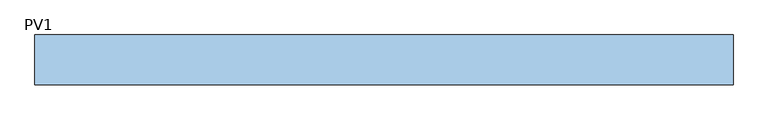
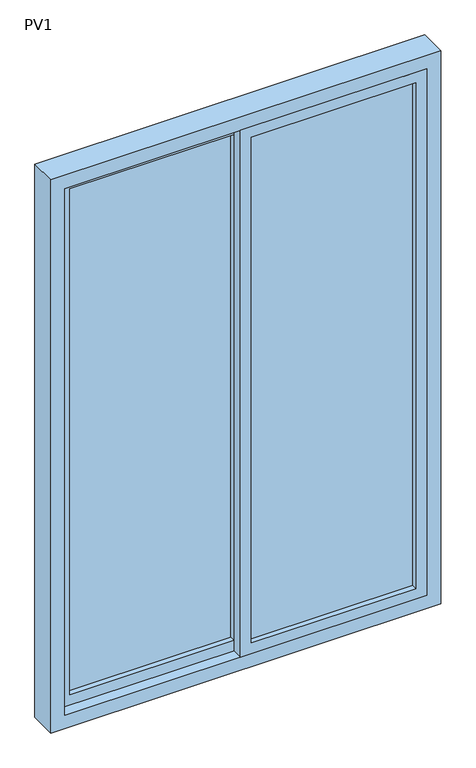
"""IFC4 building model written with IfcOpenShell, lengths in millimetres: window geometry, Vtana Corrediza : PV1."""

from ifc_helpers import new_model, si_unit, frame, origin, place, context, project, spatial, polyline, outline, extrude, source, transform, mapped, element, save


def pv1_25aa4a58(model_context):
    return source(origin(), model_context, "Body", "SweptSolid", [
        extrude(outline(polyline([(-20.0, 54.0), (-20.0, 49.0), (-610.0, 49.0), (-610.0, 54.0), (-20.0, 54.0)])), frame((0.0, 0.0, 890.0), z_axis=(0.0, 0.0, 1.0), x_axis=(1.0, 0.0, 0.0)), (0.0, 0.0, 1.0), 1920.0),
        extrude(outline(polyline([(610.0, 14.0), (610.0, 9.0), (20.0, 9.0), (20.0, 14.0), (610.0, 14.0)])), frame((0.0, 0.0, 890.0), z_axis=(0.0, 0.0, 1.0), x_axis=(1.0, 0.0, 0.0)), (0.0, 0.0, 1.0), 1920.0),
        extrude(outline(polyline([(2850.0, -650.0), (850.0, -650.0), (850.0, 20.0), (2850.0, 20.0), (2850.0, -650.0)]), holes=[polyline([(2810.0, -610.0), (2810.0, -20.0), (890.0, -20.0), (890.0, -610.0), (2810.0, -610.0)])]), frame((0.0, 29.0, 0.0), z_axis=(0.0, 1.0, 0.0), x_axis=(0.0, 0.0, 1.0)), (0.0, 0.0, 1.0), 40.0),
        extrude(outline(polyline([(2850.0, -20.0), (850.0, -20.0), (850.0, 650.0), (2850.0, 650.0), (2850.0, -20.0)]), holes=[polyline([(2810.0, 610.0), (890.0, 610.0), (890.0, 20.0), (2810.0, 20.0), (2810.0, 610.0)])]), frame((0.0, -11.0, 0.0), z_axis=(0.0, 1.0, 0.0), x_axis=(0.0, 0.0, 1.0)), (0.0, 0.0, 1.0), 40.0),
        extrude(outline(polyline([(2900.0, -700.0), (800.0, -700.0), (800.0, 700.0), (2900.0, 700.0), (2900.0, -700.0)]), holes=[polyline([(2850.0, -650.0), (2850.0, 650.0), (850.0, 650.0), (850.0, -650.0), (2850.0, -650.0)])]), frame((0.0, -11.0, 0.0), z_axis=(0.0, 1.0, 0.0), x_axis=(0.0, 0.0, 1.0)), (0.0, 0.0, 1.0), 100.0),
    ])


if __name__ == "__main__":
    model = new_model("IFC4")
    model_context = context("Model", 3, world=origin())
    ifc_project = project(units=[si_unit("LENGTHUNIT", "METRE", prefix="MILLI")], contexts=[model_context])
    site = spatial("IfcSite", under=ifc_project)
    building = spatial("IfcBuilding", under=site)
    placement = place(None, origin())
    pv1_shape = pv1_25aa4a58(model_context)
    element("IfcWindow", 1, ObjectType="Vtana Corrediza : PV1", at=placement, inside=building, context=model_context, shape_type="MappedRepresentation", body=[
        mapped(pv1_shape, transform((0.0, 0.0, 0.0), x_axis=(1.0, 0.0, 0.0), y_axis=(0.0, 1.0, 0.0), z_axis=(0.0, 0.0, 1.0))),
    ])
    save(model, "model.ifc")
